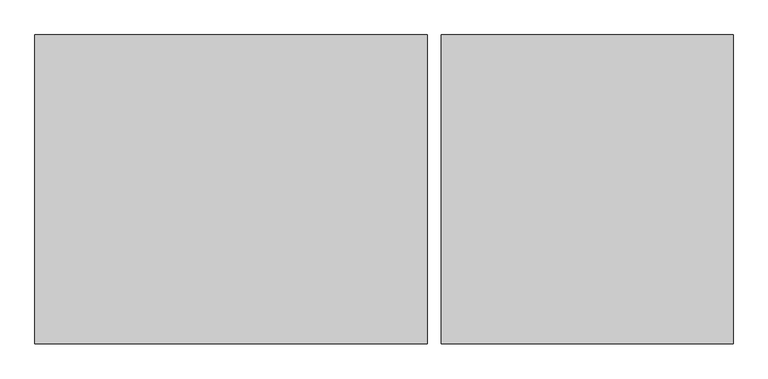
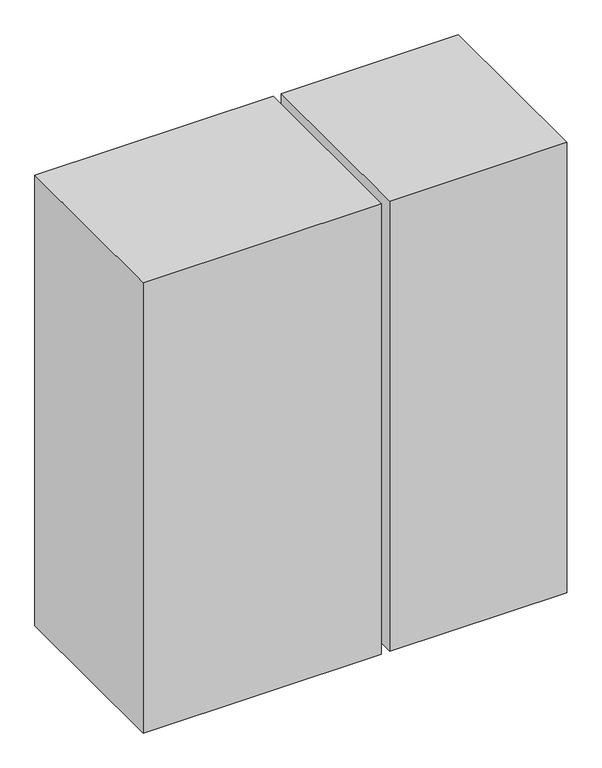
"""IFC4 building model written with IfcOpenShell, lengths in millimetres: furniture geometry, Mobilier 1 : Mobilier 1."""

from ifc_helpers import new_model, si_unit, frame, origin, place, context, project, spatial, polyline, outline, extrude, source, transform, mapped, element, save


def furniture_e2f196c9(model_context):
    return source(origin(), model_context, "Body", "SweptSolid", [
        extrude(outline(polyline([(-21450.5797272, 18897.177026), (-20350.5797272, 18897.177026), (-20350.5797272, 18031.184365), (-21450.5797272, 18031.184365), (-21450.5797272, 18897.177026)])), frame((0.0, 0.0, 2313.3082742), z_axis=(0.0, 0.0, 1.0), x_axis=(1.0, 0.0, 0.0)), (0.0, 0.0, 1.0), 2200.0),
        extrude(outline(polyline([(-19494.0592601, 18897.177026), (-19494.0592601, 18031.184365), (-20312.0346068, 18031.184365), (-20312.0346068, 18897.177026), (-19494.0592601, 18897.177026)])), frame((0.0, 0.0, 2313.3082742), z_axis=(0.0, 0.0, 1.0), x_axis=(1.0, 0.0, 0.0)), (0.0, 0.0, 1.0), 2200.0),
    ])


if __name__ == "__main__":
    model = new_model("IFC4")
    model_context = context("Model", 3, world=origin())
    ifc_project = project(units=[si_unit("LENGTHUNIT", "METRE", prefix="MILLI")], contexts=[model_context])
    site = spatial("IfcSite", under=ifc_project)
    building = spatial("IfcBuilding", under=site)
    placement = place(None, origin())
    furniture_shape = furniture_e2f196c9(model_context)
    element("IfcFurniture", 1, ObjectType="Mobilier 1 : Mobilier 1", at=placement, inside=building, context=model_context, shape_type="MappedRepresentation", body=[
        mapped(furniture_shape, transform((0.0, 0.0, 0.0), x_axis=(1.0, 0.0, 0.0), y_axis=(0.0, 1.0, 0.0), z_axis=(0.0, 0.0, 1.0))),
    ])
    save(model, "model.ifc")
